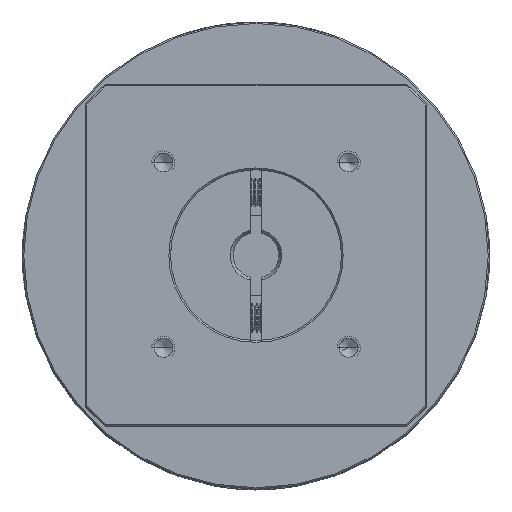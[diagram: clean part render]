
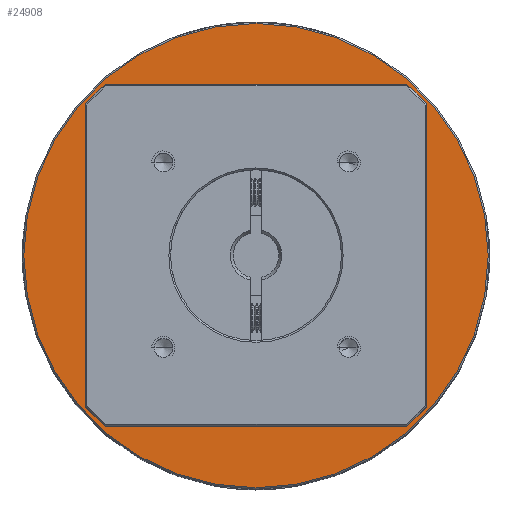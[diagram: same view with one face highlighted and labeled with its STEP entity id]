
A CAD part, top view. The second image highlights one B-rep face of the part: STEP entity #24908.
In plain terms, the highlighted planar face has unit normal (0, 0, 1).
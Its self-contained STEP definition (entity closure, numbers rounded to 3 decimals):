
#4067 = ORIENTED_EDGE ( 'NONE', *, *, #57240, .F. ) ;
#4245 = ORIENTED_EDGE ( 'NONE', *, *, #75606, .T. ) ;
#6327 = DIRECTION ( 'NONE',  ( -1., 0., 0. ) ) ;
#6795 = CARTESIAN_POINT ( 'NONE',  ( -63.822, 16.368, -29.622 ) ) ;
#8637 = CARTESIAN_POINT ( 'NONE',  ( -63.822, 16.368, -29.622 ) ) ;
#16524 = DIRECTION ( 'NONE',  ( -1., 0., 0. ) ) ;
#16575 = FACE_BOUND ( 'NONE', #121101, .T. ) ;
#18349 = DIRECTION ( 'NONE',  ( -1., 0., 0. ) ) ;
#19576 = CARTESIAN_POINT ( 'NONE',  ( -93.822, 16.368, -29.622 ) ) ;
#19649 = FACE_OUTER_BOUND ( 'NONE', #67185, .T. ) ;
#21678 = CARTESIAN_POINT ( 'NONE',  ( -63.822, 16.368, -29.622 ) ) ;
#22672 = AXIS2_PLACEMENT_3D ( 'NONE', #122025, #64318, #6327 ) ;
#24908 = ADVANCED_FACE ( 'NONE', ( #19649, #16575 ), #63863, .T. ) ;
#25733 = DIRECTION ( 'NONE',  ( 0., 0., 1. ) ) ;
#26236 = CARTESIAN_POINT ( 'NONE',  ( -104.572, 16.368, -29.622 ) ) ;
#26326 = CARTESIAN_POINT ( 'NONE',  ( -33.822, 16.368, -29.622 ) ) ;
#30482 = VERTEX_POINT ( 'NONE', #19576 ) ;
#31459 = DIRECTION ( 'NONE',  ( -1., 0., 0. ) ) ;
#33362 = CIRCLE ( 'NONE', #62244, 30. ) ;
#36733 = AXIS2_PLACEMENT_3D ( 'NONE', #8637, #76287, #18349 ) ;
#38155 = ORIENTED_EDGE ( 'NONE', *, *, #56990, .F. ) ;
#46406 = VERTEX_POINT ( 'NONE', #26326 ) ;
#56990 = EDGE_CURVE ( 'NONE', #58314, #59652, #96759, .T. ) ;
#57240 = EDGE_CURVE ( 'NONE', #59652, #58314, #111732, .T. ) ;
#58314 = VERTEX_POINT ( 'NONE', #117362 ) ;
#59652 = VERTEX_POINT ( 'NONE', #26236 ) ;
#62244 = AXIS2_PLACEMENT_3D ( 'NONE', #6795, #74490, #16524 ) ;
#63863 = PLANE ( 'NONE',  #111393 ) ;
#64318 = DIRECTION ( 'NONE',  ( 0., 0., -1. ) ) ;
#67185 = EDGE_LOOP ( 'NONE', ( #4067, #38155 ) ) ;
#74490 = DIRECTION ( 'NONE',  ( 0., 0., -1. ) ) ;
#75606 = EDGE_CURVE ( 'NONE', #46406, #30482, #113812, .T. ) ;
#76287 = DIRECTION ( 'NONE',  ( 0., 0., -1. ) ) ;
#83667 = CARTESIAN_POINT ( 'NONE',  ( -63.822, 16.368, -29.622 ) ) ;
#89275 = DIRECTION ( 'NONE',  ( 0., 0., -1. ) ) ;
#93334 = DIRECTION ( 'NONE',  ( 1., 0., 0. ) ) ;
#96759 = CIRCLE ( 'NONE', #124490, 40.75 ) ;
#105381 = EDGE_CURVE ( 'NONE', #30482, #46406, #33362, .T. ) ;
#111393 = AXIS2_PLACEMENT_3D ( 'NONE', #83667, #25733, #93334 ) ;
#111732 = CIRCLE ( 'NONE', #22672, 40.75 ) ;
#113812 = CIRCLE ( 'NONE', #36733, 30. ) ;
#113850 = ORIENTED_EDGE ( 'NONE', *, *, #105381, .T. ) ;
#117362 = CARTESIAN_POINT ( 'NONE',  ( -23.072, 16.368, -29.622 ) ) ;
#121101 = EDGE_LOOP ( 'NONE', ( #113850, #4245 ) ) ;
#122025 = CARTESIAN_POINT ( 'NONE',  ( -63.822, 16.368, -29.622 ) ) ;
#124490 = AXIS2_PLACEMENT_3D ( 'NONE', #21678, #89275, #31459 ) ;
